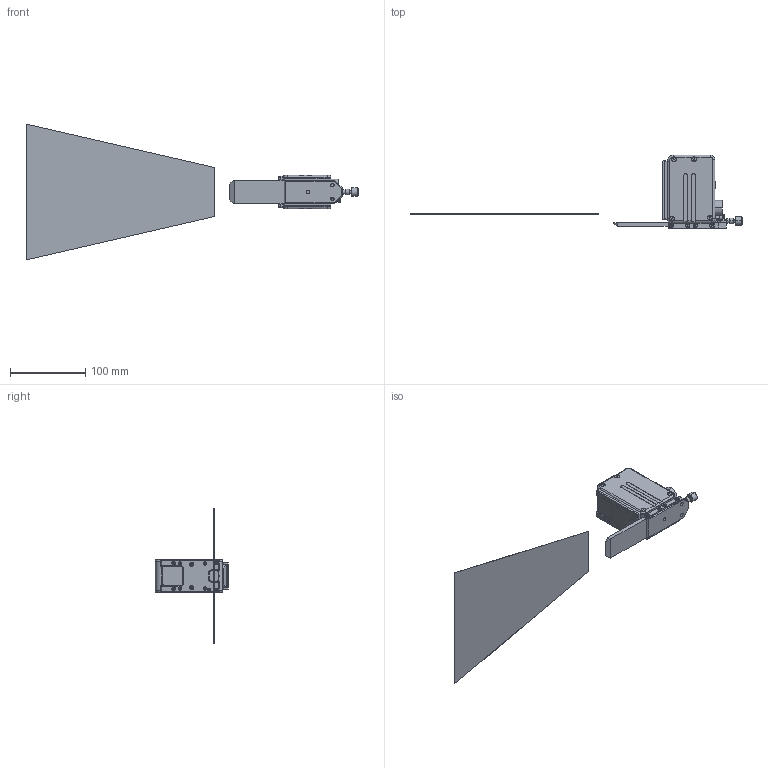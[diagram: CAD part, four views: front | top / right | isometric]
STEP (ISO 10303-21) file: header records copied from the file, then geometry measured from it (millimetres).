
FILE_DESCRIPTION (( 'STEP AP214' ), '1' );
FILE_NAME ('ÐÔ 627.90_250.000_ÑÁ ñâàðî÷íûé ñêàíåð 250 äëÿ ñàéòà2.STEP', '2019-07-04T10:54:32', ( 'test' ), ( 'Ref' ), 'SwSTEP 2.0', 'SolidWorks 2015', '' );
FILE_SCHEMA (( 'AUTOMOTIVE_DESIGN' ));
Length unit declared in the file: millimetre
Products named in the file (1): ÐÔ 627.90_250.000_ÑÁ ñâàðî÷íûé ñêàíåð 250 äëÿ ñàéòà2
Bounding box: 440 x 97.7 x 180 mm (x, y, z)
Surface area: 105626.5 mm2 (no closed solid volume)
Topology: 0 solids, 82 shells, 574 faces, 2159 edges, 1631 vertices
Faces by surface type: plane 348, cylinder 116, cone 92, torus 10, bspline 8
Entity records: 30919 total; most frequent: CARTESIAN_POINT 6824, DIRECTION 3633, ORIENTED_EDGE 3173, EDGE_CURVE 2159, VERTEX_POINT 1631, VECTOR 1267, LINE 1267, AXIS2_PLACEMENT_3D 1183
